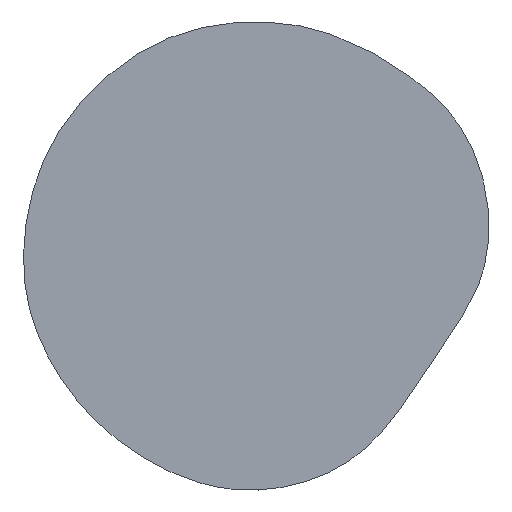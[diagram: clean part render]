
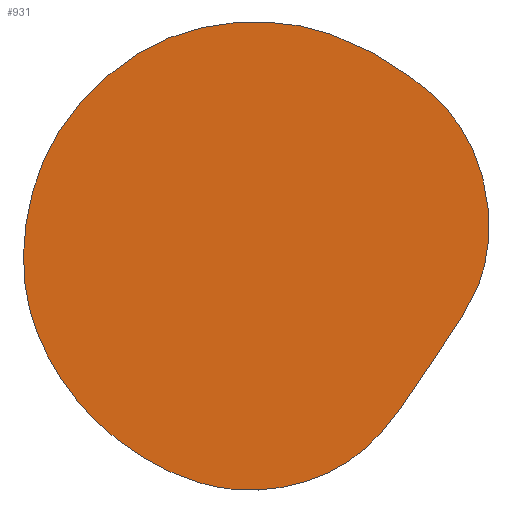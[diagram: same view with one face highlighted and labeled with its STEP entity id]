
A CAD part, top view. The second image highlights one B-rep face of the part: STEP entity #931.
In plain terms, the highlighted planar face has unit normal (0, 0, 1).
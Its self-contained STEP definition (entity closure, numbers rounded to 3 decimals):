
#931=ADVANCED_FACE('',(#2767),#25936,.T.);
#2767=FACE_OUTER_BOUND('',#4614,.T.);
#4614=EDGE_LOOP('',(#9223,#9224));
#9223=ORIENTED_EDGE('',*,*,#15827,.T.);
#9224=ORIENTED_EDGE('',*,*,#15830,.T.);
#15827=EDGE_CURVE('',#23496,#23498,#21112,.T.);
#15830=EDGE_CURVE('',#23498,#23496,#21115,.T.);
#21112=B_SPLINE_CURVE_WITH_KNOTS('',3,(#77011,#77012,#77013,#77014,#77015,
#77016,#77017,#77018,#77019,#77020,#77021,#77022,#77023,#77024,#77025,#77026,
#77027,#77028,#77029),.UNSPECIFIED.,.F.,.F.,(4,3,3,3,3,3,4),(0.,165.903,
331.806,497.71,663.613,829.516,995.419),
 .UNSPECIFIED.);
#21115=B_SPLINE_CURVE_WITH_KNOTS('',3,(#77054,#77055,#77056,#77057,#77058,
#77059,#77060,#77061,#77062,#77063,#77064,#77065,#77066,#77067,#77068,#77069,
#77070,#77071,#77072,#77073,#77074,#77075),.UNSPECIFIED.,.F.,.F.,(4,3,3,
3,3,3,3,4),(995.419,1161.323,1327.226,1493.129,
1659.032,1824.936,1990.839,2156.742),
 .UNSPECIFIED.);
#23496=VERTEX_POINT('',#76987);
#23498=VERTEX_POINT('',#76989);
#25936=PLANE('',#27203);
#27203=AXIS2_PLACEMENT_3D('',#76941,#28023,$);
#28023=DIRECTION('',(0.,0.,1.));
#76941=CARTESIAN_POINT('',(-405.126,-404.122,729.));
#76987=CARTESIAN_POINT('',(-37.91,316.876,729.));
#76989=CARTESIAN_POINT('',(-36.547,-322.844,729.));
#77011=CARTESIAN_POINT('',(-37.91,316.876,729.));
#77012=CARTESIAN_POINT('',(-78.371,313.353,729.));
#77013=CARTESIAN_POINT('',(-118.876,303.701,729.));
#77014=CARTESIAN_POINT('',(-162.4,278.161,729.));
#77015=CARTESIAN_POINT('',(-205.923,252.621,729.));
#77016=CARTESIAN_POINT('',(-252.465,211.194,729.));
#77017=CARTESIAN_POINT('',(-282.327,159.481,729.));
#77018=CARTESIAN_POINT('',(-312.19,107.768,729.));
#77019=CARTESIAN_POINT('',(-325.374,45.768,729.));
#77020=CARTESIAN_POINT('',(-325.316,-6.968,729.));
#77021=CARTESIAN_POINT('',(-325.259,-59.704,729.));
#77022=CARTESIAN_POINT('',(-311.962,-103.177,729.));
#77023=CARTESIAN_POINT('',(-289.714,-144.349,729.));
#77024=CARTESIAN_POINT('',(-267.466,-185.52,729.));
#77025=CARTESIAN_POINT('',(-236.267,-224.39,729.));
#77026=CARTESIAN_POINT('',(-193.05,-257.379,729.));
#77027=CARTESIAN_POINT('',(-149.833,-290.367,729.));
#77028=CARTESIAN_POINT('',(-94.596,-317.474,729.));
#77029=CARTESIAN_POINT('',(-36.547,-322.844,729.));
#77054=CARTESIAN_POINT('',(-36.547,-322.844,729.));
#77055=CARTESIAN_POINT('',(21.502,-328.214,729.));
#77056=CARTESIAN_POINT('',(82.364,-311.848,729.));
#77057=CARTESIAN_POINT('',(126.86,-279.882,729.));
#77058=CARTESIAN_POINT('',(171.356,-247.917,729.));
#77059=CARTESIAN_POINT('',(199.486,-200.352,729.));
#77060=CARTESIAN_POINT('',(230.173,-155.345,729.));
#77061=CARTESIAN_POINT('',(260.86,-110.337,729.));
#77062=CARTESIAN_POINT('',(294.104,-67.887,729.));
#77063=CARTESIAN_POINT('',(306.89,-16.487,729.));
#77064=CARTESIAN_POINT('',(319.676,34.914,729.));
#77065=CARTESIAN_POINT('',(312.004,95.265,729.));
#77066=CARTESIAN_POINT('',(292.058,141.039,729.));
#77067=CARTESIAN_POINT('',(272.111,186.814,729.));
#77068=CARTESIAN_POINT('',(239.89,218.012,729.));
#77069=CARTESIAN_POINT('',(203.066,244.607,729.));
#77070=CARTESIAN_POINT('',(166.242,271.203,729.));
#77071=CARTESIAN_POINT('',(124.815,293.195,729.));
#77072=CARTESIAN_POINT('',(83.892,305.494,729.));
#77073=CARTESIAN_POINT('',(42.97,317.793,729.));
#77074=CARTESIAN_POINT('',(2.552,320.399,729.));
#77075=CARTESIAN_POINT('',(-37.91,316.876,729.));
